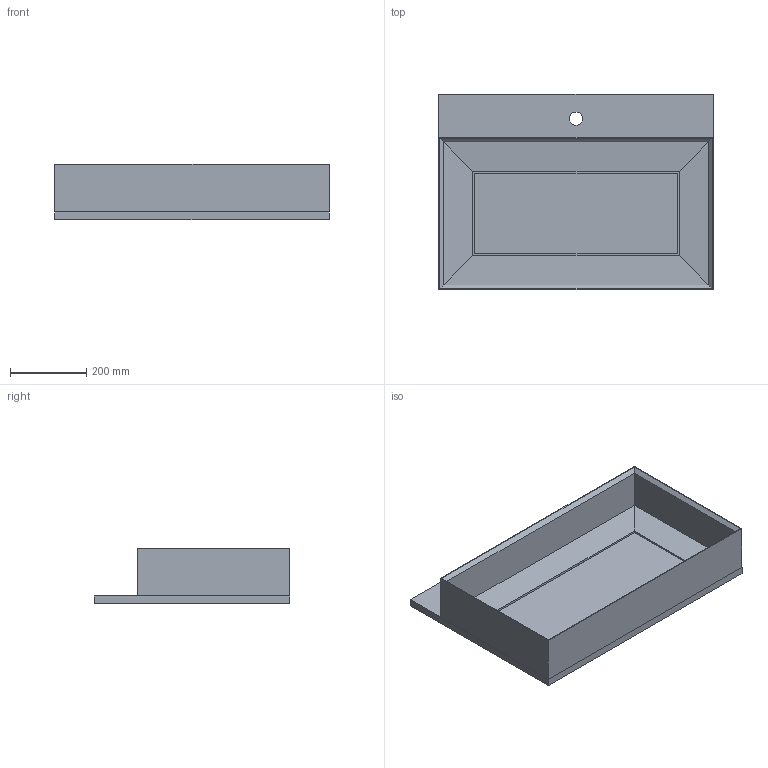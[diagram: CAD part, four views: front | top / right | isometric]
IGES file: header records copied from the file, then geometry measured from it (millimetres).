
Start section: Data from Parasolid IGES Translator 19.0.9, Copyright(c) 2006 Siemens PL M Software. All Rights Reserved.
Global section: file name: noorth-top-H 2 D 51,3 W 72_4651.igs; native system: By Siemens PLM Incorporated; preprocessor: XPlus GENERIC/IGES 19.0.9; author: Noname; organization: Noname; date: 20200603.115505; units: metre
Bounding box: 720 x 513 x 145 mm (x, y, z)
Volume: 12521321.1 mm3; surface area: 1879264.5 mm2
Topology: 2 solids, 2 shells, 40 faces, 99 edges, 62 vertices
Faces by surface type: plane 39, cylinder 1
Full cylindrical faces by diameter (mm): 34.9 x1
